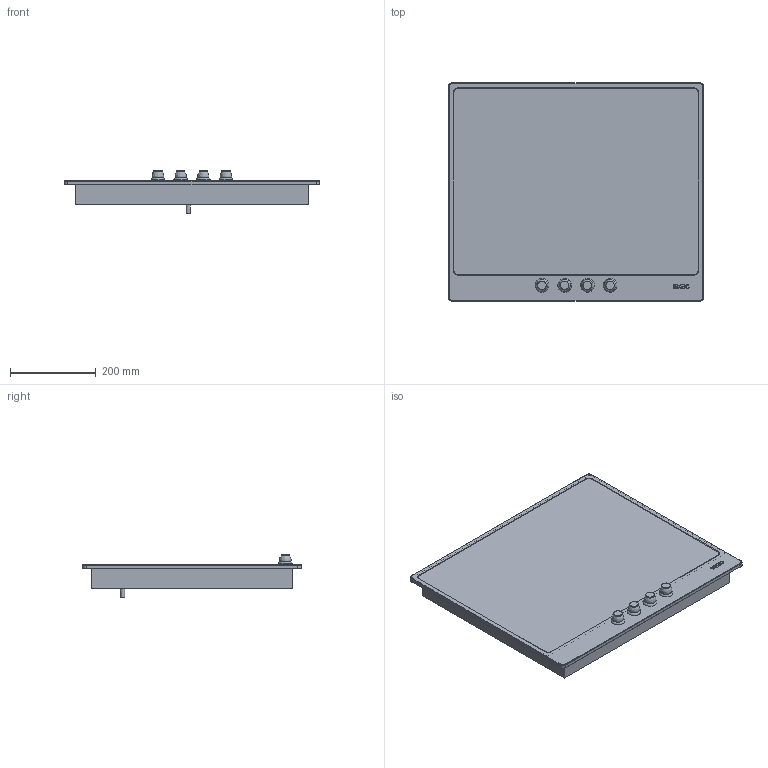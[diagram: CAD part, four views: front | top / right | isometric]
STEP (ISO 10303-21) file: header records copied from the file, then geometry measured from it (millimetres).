
FILE_DESCRIPTION(/* description */ (''),/* implementation_level */ '2;1');
FILE_NAME(/* name */ 'piano si764aom.stp',/* time_stamp */ '2019-03-11T15:12:41+01:00',/* author */ (''),/* organization */ (''),/* preprocessor_version */ 'ST-DEVELOPER v16',/* originating_system */ 'SIEMENS PLM Software NX 11.0',/* authorisation */ '');
FILE_SCHEMA (('AUTOMOTIVE_DESIGN { 1 0 10303 214 3 1 1 1 }'));
Length unit declared in the file: millimetre
Products named in the file (1): gobb2214BED370e9
Bounding box: 596 x 510 x 100.1 mm (x, y, z)
Volume: 14120312.1 mm3; surface area: 1322661.8 mm2
Topology: 23 solids, 23 shells, 225 faces, 516 edges, 340 vertices
Faces by surface type: cylinder 106, plane 103, torus 12, bspline 4
Full cylindrical faces by diameter (mm): 10 x5, 19.7 x8, 23 x4
Entity records: 6572 total; most frequent: CARTESIAN_POINT 1183, DIRECTION 1165, ORIENTED_EDGE 982, EDGE_CURVE 491, AXIS2_PLACEMENT_3D 458, VERTEX_POINT 340, EDGE_LOOP 263, LINE 249
